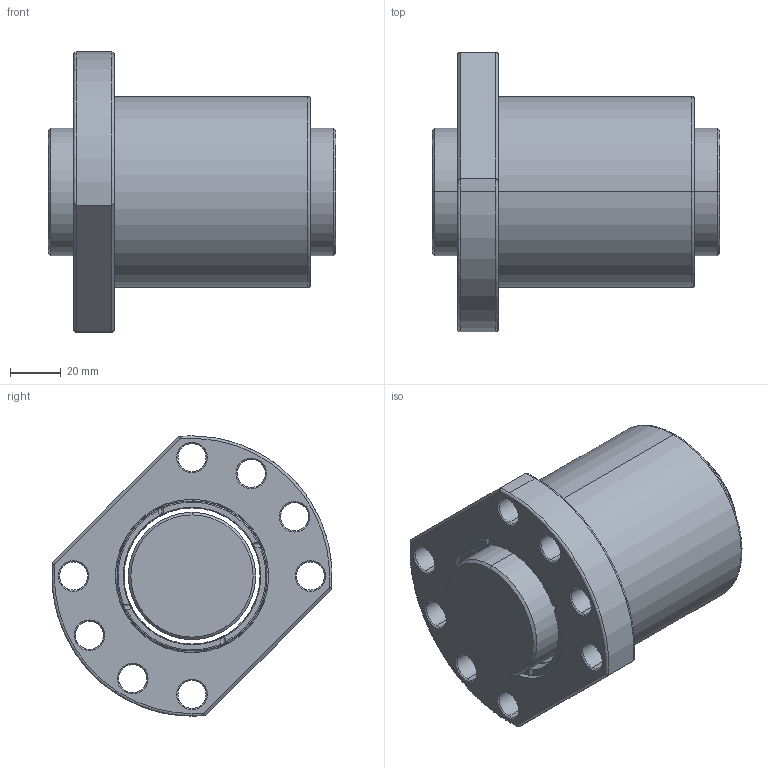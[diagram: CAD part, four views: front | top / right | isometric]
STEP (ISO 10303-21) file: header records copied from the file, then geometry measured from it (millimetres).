
FILE_DESCRIPTION (( 'STEP AP203' ), '1' );
FILE_NAME ('SFUR05010T4D-C.STEP', '2020-06-16T07:38:17', ( '' ), ( '' ), 'SwSTEP 2.0', 'SolidWorks 2013', '' );
FILE_SCHEMA (( 'CONFIG_CONTROL_DESIGN' ));
Length unit declared in the file: millimetre
Products named in the file (1): SFUR05010T4D-C
Bounding box: 113 x 109.81 x 110 mm (x, y, z)
Volume: 470405.5 mm3; surface area: 80773.6 mm2
Topology: 2 solids, 2 shells, 132 faces, 325 edges, 198 vertices
Faces by surface type: cylinder 61, bspline 26, plane 25, cone 20
Entity records: 5364 total; most frequent: CARTESIAN_POINT 2287, ORIENTED_EDGE 650, DIRECTION 607, EDGE_CURVE 325, AXIS2_PLACEMENT_3D 255, VERTEX_POINT 198, EDGE_LOOP 155, CIRCLE 148
